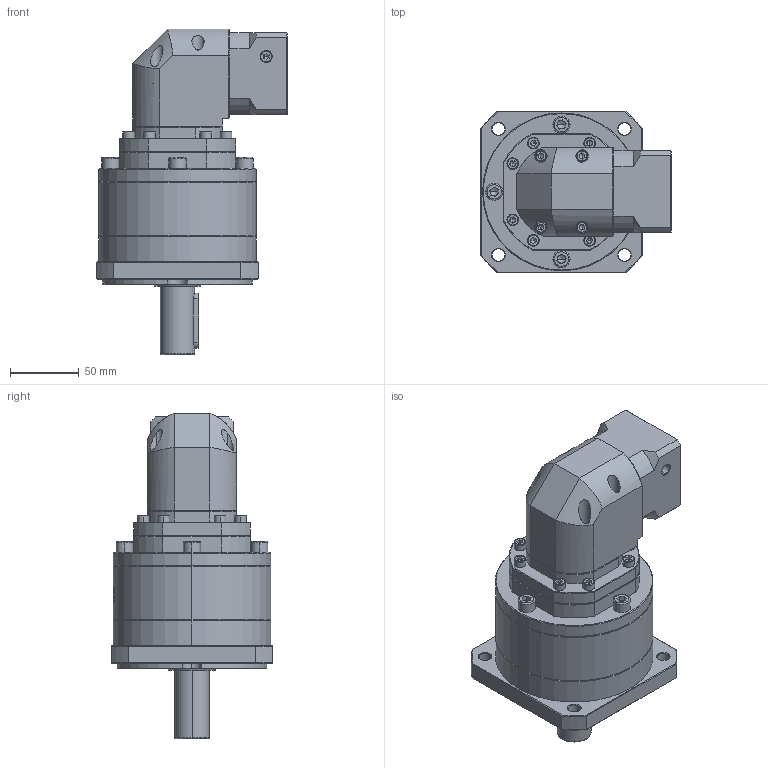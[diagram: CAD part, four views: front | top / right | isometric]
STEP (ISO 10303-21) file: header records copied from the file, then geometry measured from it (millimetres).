
FILE_DESCRIPTION (( 'STEP AP214' ), '1' );
FILE_NAME ('ZFR120A-D25-L3-P2-14-50-70-M5.step', '2023-08-27T09:48:15', ( '' ), ( '' ), 'SwSTEP 2.0', 'SolidWorks 2016', '' );
FILE_SCHEMA (( 'AUTOMOTIVE_DESIGN' ));
Length unit declared in the file: millimetre
Products named in the file (1): ZFR120A-D25-L3-P2-14-50-70-M5
Bounding box: 139.2 x 118 x 237.5 mm (x, y, z)
Volume: 1466217 mm3; surface area: 139469.7 mm2
Topology: 6 solids, 6 shells, 2435 faces, 6460 edges, 4141 vertices
Faces by surface type: plane 1172, cylinder 462, bspline 447, cone 346, torus 8
Entity records: 129527 total; most frequent: CARTESIAN_POINT 47776, ORIENTED_EDGE 12812, DIRECTION 9567, EDGE_CURVE 6406, VERTEX_POINT 4141, LINE 3419, VECTOR 3419, AXIS2_PLACEMENT_3D 3074
